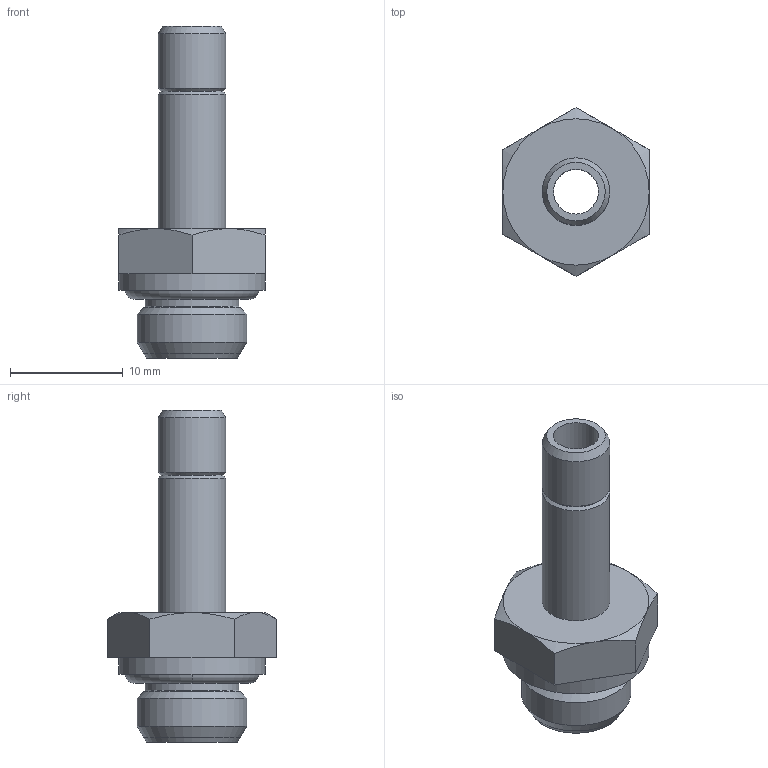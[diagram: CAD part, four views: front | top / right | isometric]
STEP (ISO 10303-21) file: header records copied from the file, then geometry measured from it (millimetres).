
FILE_DESCRIPTION(('Bauteilbeschreibung','HiCAD-Model','HiCAD-STEP-TRANSLATION','Bauteilbeschreibung'),'2;1');
FILE_NAME('B:/ABGLEICH/ZEICHNUNGEN/STEP FÜR INTERNET/STEP/IPSO 06/200607_IPSO_06_6_1-8.STP','2012-03-01T08:05:40+00:00',('Konstrukteur'),('Konstrukteur Firma GmbH'),' HiCAD neXt 2008, Step 3.1.1401.2J ','HiCAD neXt 2008','confidential');
FILE_SCHEMA(('AUTOMOTIVE_DESIGN { 1 2 10303 214 0 1 1 1 }'));
Length unit declared in the file: millimetre
Products named in the file (5): A00607_IPSO_06_6_1_8; A00607; A006070; G 1_8; OR 7_2X1_9
Assembly tree (4 placements, depth 3):
  A00607_IPSO_06_6_1_8
    A00607
    A006070
      G 1_8
    OR 7_2X1_9
Bounding box: 13 x 15.01 x 29.5 mm (x, y, z)
Volume: 1181.8 mm3; surface area: 1880 mm2
Topology: 3 solids, 3 shells, 48 faces, 107 edges, 64 vertices
Faces by surface type: plane 17, cone 16, cylinder 9, torus 6
Full cylindrical faces by diameter (mm): 4 x1, 6 x2, 6.2 x1, 8.3 x1, 8.566 x2, 9.728 x1, 13 x1
Entity records: 1579 total; most frequent: DIRECTION 220, CARTESIAN_POINT 208, ORIENTED_EDGE 150, AXIS2_PLACEMENT_3D 101, EDGE_CURVE 75, EDGE_LOOP 74, COLOUR_RGB 70, PRESENTATION_STYLE_ASSIGNMENT 70
